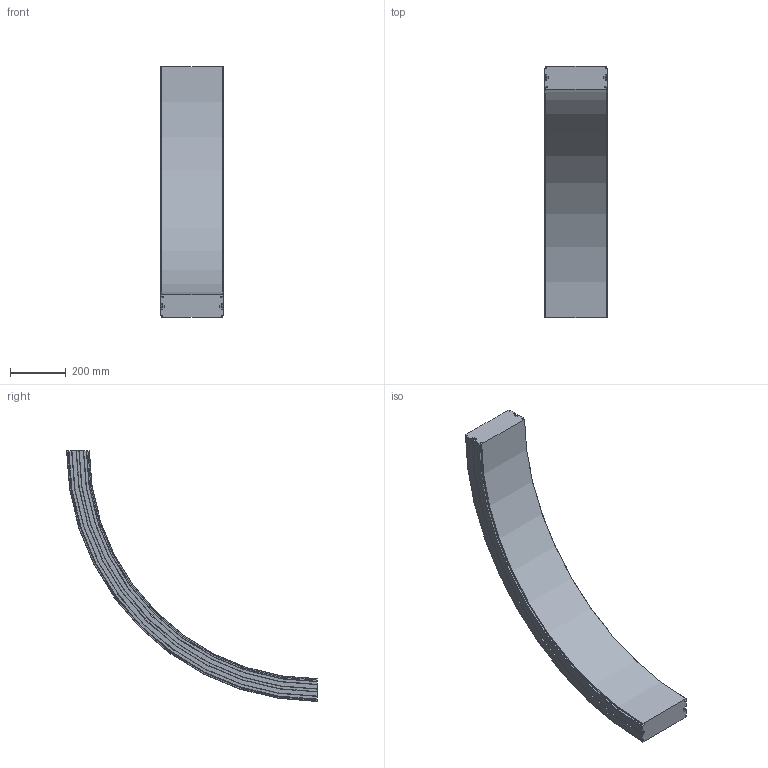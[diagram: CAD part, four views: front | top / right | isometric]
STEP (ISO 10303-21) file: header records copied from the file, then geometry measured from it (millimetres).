
FILE_DESCRIPTION(/* description */ ('VERTIKALKURVA S220 R860'),/* implementation_level */ '2;1');
FILE_NAME(/* name */ '\\carryline.intra\privat\users\mathias\Desktop\Tillfälliga filer\220-5695+220-2000-NER-01.stp',/* time_stamp */ '2018-11-29T14:46:24+01:00',/* author */ ('MD'),/* organization */ ('CARRYLINE'),/* preprocessor_version */ 'ST-DEVELOPER v17',/* originating_system */ 'Autodesk Inventor 2018',/* authorisation */ '');
FILE_SCHEMA (('AUTOMOTIVE_DESIGN { 1 0 10303 214 3 1 1 }'));
Length unit declared in the file: millimetre
Products named in the file (1): 220-5695+220-2000-NER-01
Bounding box: 224 x 899.5 x 899.5 mm (x, y, z)
Volume: 23873238.3 mm3; surface area: 1050699.5 mm2
Topology: 1 solids, 1 shells, 113 faces, 318 edges, 212 vertices
Faces by surface type: plane 48, cylinder 31, bspline 14, cone 14, torus 6
Entity records: 8328 total; most frequent: CARTESIAN_POINT 5360, ORIENTED_EDGE 636, DIRECTION 576, EDGE_CURVE 318, VERTEX_POINT 212, AXIS2_PLACEMENT_3D 199, LINE 178, VECTOR 178
